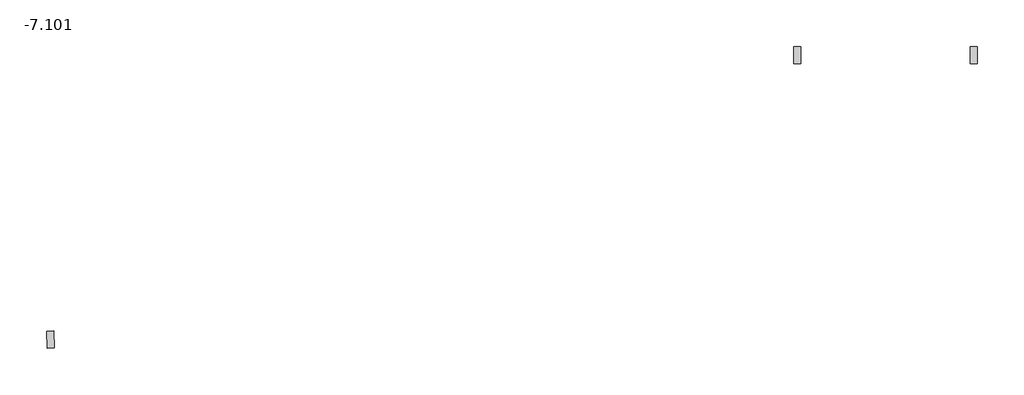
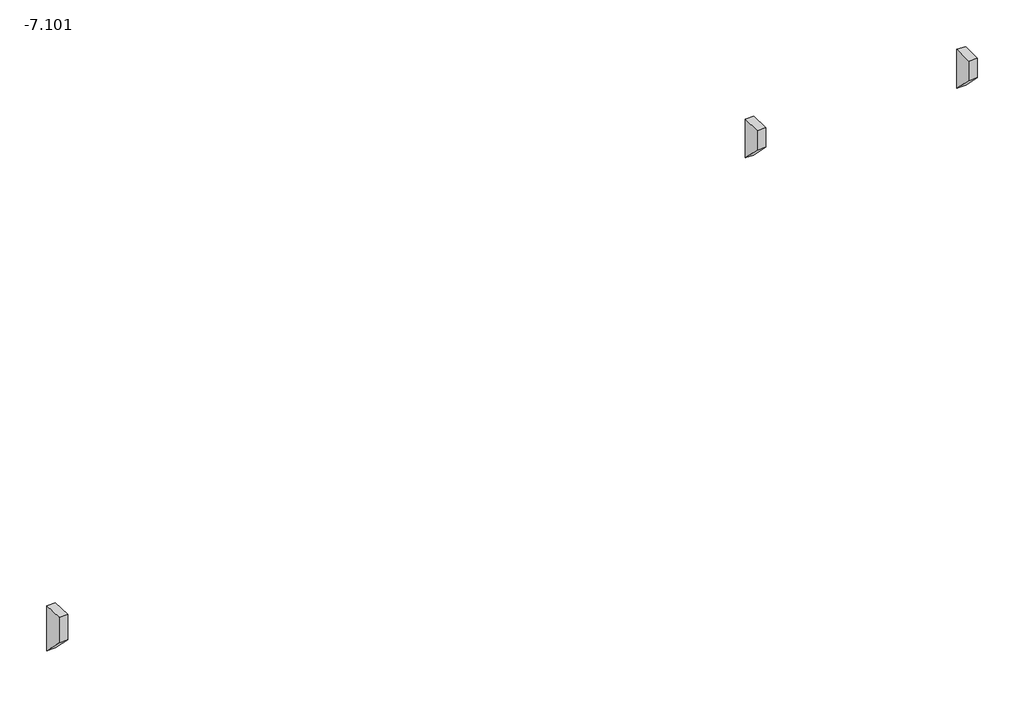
# One storey, incomplete: 3 beams.
"""IFC4 building model written with IfcOpenShell, lengths in millimetres."""

from ifc_helpers import new_model, si_unit, origin, place, context, project, spatial, transform, mapped, element, save
from components import beam_40fa813a, beam_9dfcf295

model = new_model("IFC4")

# Units and contexts
model_context = context("Model", 3, world=origin())
ifc_project = project(units=[si_unit("LENGTHUNIT", "METRE", prefix="MILLI")], contexts=[model_context])

# Site, building, storey
site = spatial("IfcSite", under=ifc_project)
building = spatial("IfcBuilding", under=site)
storey = spatial("IfcBuildingStorey", under=building, Name="-7.101", Elevation=-1096.2000265)

# Beams
placement = place(None, origin())
beam_shape = beam_40fa813a(model_context)
element("IfcBeam", 1, ObjectType="appoggiTravi1 : appoggiTravi", at=placement, inside=storey, context=model_context, shape_type="MappedRepresentation", body=[
    mapped(beam_shape, transform((-4840.0026136, 0.0, 20.0122228), x_axis=(1.0, 0.0, 0.0), y_axis=(0.0, 1.0, 0.0), z_axis=(0.0, 0.0, 1.0))),
])
element("IfcBeam", 2, ObjectType="appoggiTravi3 : appoggiTravi", at=placement, inside=storey, context=model_context, shape_type="MappedRepresentation", body=[
    mapped(beam_shape, transform((-9680.0052272, 0.0, 32.0), x_axis=(1.0, 0.0, 0.0), y_axis=(0.0, 1.0, 0.0), z_axis=(0.0, 0.0, 1.0))),
])
beam_2_shape = beam_9dfcf295(model_context)
element("IfcBeam", 3, ObjectType="appoggiTravi8 : appoggiTravi", at=placement, inside=storey, context=model_context, shape_type="MappedRepresentation", body=[
    mapped(beam_2_shape, transform((-24450.1014288, -7634.9802948, 0.0), x_axis=(0.9995137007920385, 0.031182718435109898, 0.0), y_axis=(-0.031182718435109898, 0.9995137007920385, 0.0), z_axis=(0.0, 0.0, 1.0))),
])

save(model, "model.ifc")
